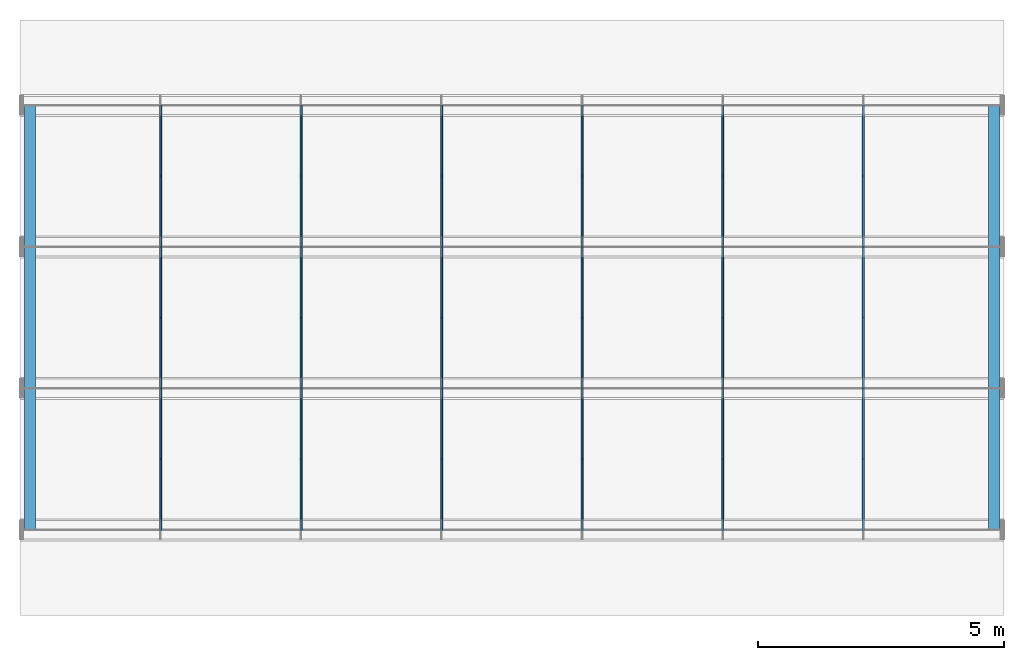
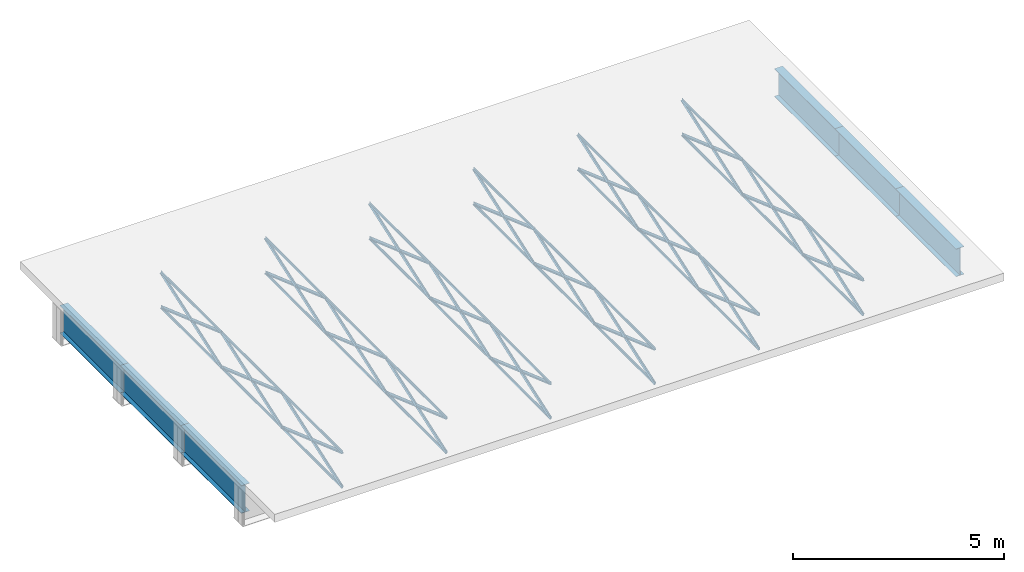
# One storey, part 1 of 12: 78 members.
"""IFC4 building model written with IfcOpenShell, lengths in metres."""

from ifc_helpers import new_model, si_unit, frame, origin, origin_with_axes, origin_2d_with_axis, place, context, subcontext, project, spatial, i_section, l_section, extrude, element, save


model = new_model("IFC4")

# Units and contexts
model_context = context("Model", 3, precision=1e-05, world=origin())
body_context = subcontext(model_context, "Body", "Model", "MODEL_VIEW")
ifc_project = project(units=[si_unit("LENGTHUNIT", "METRE"), si_unit("AREAUNIT", "SQUARE_METRE"), si_unit("VOLUMEUNIT", "CUBIC_METRE"), si_unit("PLANEANGLEUNIT", "RADIAN")], contexts=[model_context])

# Site, building, storey
site_placement = place(None, origin_with_axes())
site = spatial("IfcSite", under=ifc_project, at=site_placement, Name="Default Site")
building_placement = place(site_placement, origin_with_axes())
building = spatial("IfcBuilding", under=site, at=building_placement, Name="Bridge Structure")
storey_placement = place(building_placement, origin_with_axes())
storey = spatial("IfcBuildingStorey", under=building, at=storey_placement, Name="Superstructure")

# Members
for number, where, z_axis, x_axis, name in (
    (1, (0.2, -4.3125, 0.1015), (0.0, 1.0, 0.0), (-1.0, 0.0, 0.0), "End Diaphragm"),
    (2, (0.2, -1.4375, 0.1015), (0.0, 1.0, 0.0), (-1.0, 0.0, 0.0), "End Diaphragm"),
    (3, (0.2, 1.4375, 0.1015), (0.0, 1.0, 0.0), (-1.0, 0.0, 0.0), "End Diaphragm"),
):
    element("IfcMember", number, at=place(storey_placement, frame(where, z_axis=z_axis, x_axis=x_axis)), inside=storey, Name=name, context=body_context, shape_type="SweptSolid", body=[
        extrude(i_section(OverallWidth=0.225, OverallDepth=0.809, WebThickness=0.01, FlangeThickness=0.012, at=origin_2d_with_axis()), origin_with_axes(), (0.0, 0.0, 1.0), 2.875),
    ])
for number, where, z_axis, x_axis, name in (
    (4, (2.857142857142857, -4.3125, 0.506), (0.0, 0.9432686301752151, -0.33203055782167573), (-1.0, 0.0, 0.0), "Diagonal Brace"),
    (5, (2.857142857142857, -4.3125, -0.506), (0.0, 0.9432686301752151, 0.33203055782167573), (-1.0, 0.0, 0.0), "Diagonal Brace"),
):
    element("IfcMember", number, at=place(storey_placement, frame(where, z_axis=z_axis, x_axis=x_axis)), inside=storey, Name=name, context=body_context, shape_type="SweptSolid", body=[
        extrude(l_section(Depth=0.075, Width=0.05, Thickness=0.008, at=origin_2d_with_axis()), origin_with_axes(), (0.0, 0.0, 1.0), 3.04791223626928),
    ])
for number, where, z_axis, x_axis, name in (
    (6, (2.857142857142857, -4.3125, -0.506), (0.0, 1.0, 0.0), (-1.0, 0.0, 0.0), "Bottom Chord"),
    (7, (2.857142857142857, -4.3125, 0.506), (0.0, 1.0, 0.0), (-1.0, 0.0, 0.0), "Top Chord"),
):
    element("IfcMember", number, at=place(storey_placement, frame(where, z_axis=z_axis, x_axis=x_axis)), inside=storey, Name=name, context=body_context, shape_type="SweptSolid", body=[
        extrude(l_section(Depth=0.065, Width=0.04, Thickness=0.008, at=origin_2d_with_axis()), origin_with_axes(), (0.0, 0.0, 1.0), 2.875),
    ])
for number, where, z_axis, x_axis, name in (
    (8, (2.857142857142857, -1.4375, 0.506), (0.0, 0.9432686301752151, -0.33203055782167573), (-1.0, 0.0, 0.0), "Diagonal Brace"),
    (9, (2.857142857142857, -1.4375, -0.506), (0.0, 0.9432686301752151, 0.33203055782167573), (-1.0, 0.0, 0.0), "Diagonal Brace"),
):
    element("IfcMember", number, at=place(storey_placement, frame(where, z_axis=z_axis, x_axis=x_axis)), inside=storey, Name=name, context=body_context, shape_type="SweptSolid", body=[
        extrude(l_section(Depth=0.075, Width=0.05, Thickness=0.008, at=origin_2d_with_axis()), origin_with_axes(), (0.0, 0.0, 1.0), 3.04791223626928),
    ])
for number, where, z_axis, x_axis, name in (
    (10, (2.857142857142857, -1.4375, -0.506), (0.0, 1.0, 0.0), (-1.0, 0.0, 0.0), "Bottom Chord"),
    (11, (2.857142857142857, -1.4375, 0.506), (0.0, 1.0, 0.0), (-1.0, 0.0, 0.0), "Top Chord"),
):
    element("IfcMember", number, at=place(storey_placement, frame(where, z_axis=z_axis, x_axis=x_axis)), inside=storey, Name=name, context=body_context, shape_type="SweptSolid", body=[
        extrude(l_section(Depth=0.065, Width=0.04, Thickness=0.008, at=origin_2d_with_axis()), origin_with_axes(), (0.0, 0.0, 1.0), 2.875),
    ])
for number, where, z_axis, x_axis, name in (
    (12, (2.857142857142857, 1.4375, 0.506), (0.0, 0.9432686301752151, -0.33203055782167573), (-1.0, 0.0, 0.0), "Diagonal Brace"),
    (13, (2.857142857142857, 1.4375, -0.506), (0.0, 0.9432686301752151, 0.33203055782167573), (-1.0, 0.0, 0.0), "Diagonal Brace"),
):
    element("IfcMember", number, at=place(storey_placement, frame(where, z_axis=z_axis, x_axis=x_axis)), inside=storey, Name=name, context=body_context, shape_type="SweptSolid", body=[
        extrude(l_section(Depth=0.075, Width=0.05, Thickness=0.008, at=origin_2d_with_axis()), origin_with_axes(), (0.0, 0.0, 1.0), 3.04791223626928),
    ])
for number, where, z_axis, x_axis, name in (
    (14, (2.857142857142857, 1.4375, -0.506), (0.0, 1.0, 0.0), (-1.0, 0.0, 0.0), "Bottom Chord"),
    (15, (2.857142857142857, 1.4375, 0.506), (0.0, 1.0, 0.0), (-1.0, 0.0, 0.0), "Top Chord"),
):
    element("IfcMember", number, at=place(storey_placement, frame(where, z_axis=z_axis, x_axis=x_axis)), inside=storey, Name=name, context=body_context, shape_type="SweptSolid", body=[
        extrude(l_section(Depth=0.065, Width=0.04, Thickness=0.008, at=origin_2d_with_axis()), origin_with_axes(), (0.0, 0.0, 1.0), 2.875),
    ])
for number, where, z_axis, x_axis, name in (
    (16, (5.714285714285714, -4.3125, 0.506), (0.0, 0.9432686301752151, -0.33203055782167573), (-1.0, 0.0, 0.0), "Diagonal Brace"),
    (17, (5.714285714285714, -4.3125, -0.506), (0.0, 0.9432686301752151, 0.33203055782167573), (-1.0, 0.0, 0.0), "Diagonal Brace"),
):
    element("IfcMember", number, at=place(storey_placement, frame(where, z_axis=z_axis, x_axis=x_axis)), inside=storey, Name=name, context=body_context, shape_type="SweptSolid", body=[
        extrude(l_section(Depth=0.075, Width=0.05, Thickness=0.008, at=origin_2d_with_axis()), origin_with_axes(), (0.0, 0.0, 1.0), 3.04791223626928),
    ])
for number, where, z_axis, x_axis, name in (
    (18, (5.714285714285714, -4.3125, -0.506), (0.0, 1.0, 0.0), (-1.0, 0.0, 0.0), "Bottom Chord"),
    (19, (5.714285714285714, -4.3125, 0.506), (0.0, 1.0, 0.0), (-1.0, 0.0, 0.0), "Top Chord"),
):
    element("IfcMember", number, at=place(storey_placement, frame(where, z_axis=z_axis, x_axis=x_axis)), inside=storey, Name=name, context=body_context, shape_type="SweptSolid", body=[
        extrude(l_section(Depth=0.065, Width=0.04, Thickness=0.008, at=origin_2d_with_axis()), origin_with_axes(), (0.0, 0.0, 1.0), 2.875),
    ])
for number, where, z_axis, x_axis, name in (
    (20, (5.714285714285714, -1.4375, 0.506), (0.0, 0.9432686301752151, -0.33203055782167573), (-1.0, 0.0, 0.0), "Diagonal Brace"),
    (21, (5.714285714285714, -1.4375, -0.506), (0.0, 0.9432686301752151, 0.33203055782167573), (-1.0, 0.0, 0.0), "Diagonal Brace"),
):
    element("IfcMember", number, at=place(storey_placement, frame(where, z_axis=z_axis, x_axis=x_axis)), inside=storey, Name=name, context=body_context, shape_type="SweptSolid", body=[
        extrude(l_section(Depth=0.075, Width=0.05, Thickness=0.008, at=origin_2d_with_axis()), origin_with_axes(), (0.0, 0.0, 1.0), 3.04791223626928),
    ])
for number, where, z_axis, x_axis, name in (
    (22, (5.714285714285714, -1.4375, -0.506), (0.0, 1.0, 0.0), (-1.0, 0.0, 0.0), "Bottom Chord"),
    (23, (5.714285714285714, -1.4375, 0.506), (0.0, 1.0, 0.0), (-1.0, 0.0, 0.0), "Top Chord"),
):
    element("IfcMember", number, at=place(storey_placement, frame(where, z_axis=z_axis, x_axis=x_axis)), inside=storey, Name=name, context=body_context, shape_type="SweptSolid", body=[
        extrude(l_section(Depth=0.065, Width=0.04, Thickness=0.008, at=origin_2d_with_axis()), origin_with_axes(), (0.0, 0.0, 1.0), 2.875),
    ])
for number, where, z_axis, x_axis, name in (
    (24, (5.714285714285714, 1.4375, 0.506), (0.0, 0.9432686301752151, -0.33203055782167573), (-1.0, 0.0, 0.0), "Diagonal Brace"),
    (25, (5.714285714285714, 1.4375, -0.506), (0.0, 0.9432686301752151, 0.33203055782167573), (-1.0, 0.0, 0.0), "Diagonal Brace"),
):
    element("IfcMember", number, at=place(storey_placement, frame(where, z_axis=z_axis, x_axis=x_axis)), inside=storey, Name=name, context=body_context, shape_type="SweptSolid", body=[
        extrude(l_section(Depth=0.075, Width=0.05, Thickness=0.008, at=origin_2d_with_axis()), origin_with_axes(), (0.0, 0.0, 1.0), 3.04791223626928),
    ])
for number, where, z_axis, x_axis, name in (
    (26, (5.714285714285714, 1.4375, -0.506), (0.0, 1.0, 0.0), (-1.0, 0.0, 0.0), "Bottom Chord"),
    (27, (5.714285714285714, 1.4375, 0.506), (0.0, 1.0, 0.0), (-1.0, 0.0, 0.0), "Top Chord"),
):
    element("IfcMember", number, at=place(storey_placement, frame(where, z_axis=z_axis, x_axis=x_axis)), inside=storey, Name=name, context=body_context, shape_type="SweptSolid", body=[
        extrude(l_section(Depth=0.065, Width=0.04, Thickness=0.008, at=origin_2d_with_axis()), origin_with_axes(), (0.0, 0.0, 1.0), 2.875),
    ])
for number, where, z_axis, x_axis, name in (
    (28, (8.571428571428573, -4.3125, 0.506), (0.0, 0.9432686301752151, -0.33203055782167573), (-1.0, 0.0, 0.0), "Diagonal Brace"),
    (29, (8.571428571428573, -4.3125, -0.506), (0.0, 0.9432686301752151, 0.33203055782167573), (-1.0, 0.0, 0.0), "Diagonal Brace"),
):
    element("IfcMember", number, at=place(storey_placement, frame(where, z_axis=z_axis, x_axis=x_axis)), inside=storey, Name=name, context=body_context, shape_type="SweptSolid", body=[
        extrude(l_section(Depth=0.075, Width=0.05, Thickness=0.008, at=origin_2d_with_axis()), origin_with_axes(), (0.0, 0.0, 1.0), 3.04791223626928),
    ])
for number, where, z_axis, x_axis, name in (
    (30, (8.571428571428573, -4.3125, -0.506), (0.0, 1.0, 0.0), (-1.0, 0.0, 0.0), "Bottom Chord"),
    (31, (8.571428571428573, -4.3125, 0.506), (0.0, 1.0, 0.0), (-1.0, 0.0, 0.0), "Top Chord"),
):
    element("IfcMember", number, at=place(storey_placement, frame(where, z_axis=z_axis, x_axis=x_axis)), inside=storey, Name=name, context=body_context, shape_type="SweptSolid", body=[
        extrude(l_section(Depth=0.065, Width=0.04, Thickness=0.008, at=origin_2d_with_axis()), origin_with_axes(), (0.0, 0.0, 1.0), 2.875),
    ])
for number, where, z_axis, x_axis, name in (
    (32, (8.571428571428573, -1.4375, 0.506), (0.0, 0.9432686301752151, -0.33203055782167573), (-1.0, 0.0, 0.0), "Diagonal Brace"),
    (33, (8.571428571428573, -1.4375, -0.506), (0.0, 0.9432686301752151, 0.33203055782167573), (-1.0, 0.0, 0.0), "Diagonal Brace"),
):
    element("IfcMember", number, at=place(storey_placement, frame(where, z_axis=z_axis, x_axis=x_axis)), inside=storey, Name=name, context=body_context, shape_type="SweptSolid", body=[
        extrude(l_section(Depth=0.075, Width=0.05, Thickness=0.008, at=origin_2d_with_axis()), origin_with_axes(), (0.0, 0.0, 1.0), 3.04791223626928),
    ])
for number, where, z_axis, x_axis, name in (
    (34, (8.571428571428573, -1.4375, -0.506), (0.0, 1.0, 0.0), (-1.0, 0.0, 0.0), "Bottom Chord"),
    (35, (8.571428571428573, -1.4375, 0.506), (0.0, 1.0, 0.0), (-1.0, 0.0, 0.0), "Top Chord"),
):
    element("IfcMember", number, at=place(storey_placement, frame(where, z_axis=z_axis, x_axis=x_axis)), inside=storey, Name=name, context=body_context, shape_type="SweptSolid", body=[
        extrude(l_section(Depth=0.065, Width=0.04, Thickness=0.008, at=origin_2d_with_axis()), origin_with_axes(), (0.0, 0.0, 1.0), 2.875),
    ])
for number, where, z_axis, x_axis, name in (
    (36, (8.571428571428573, 1.4375, 0.506), (0.0, 0.9432686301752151, -0.33203055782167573), (-1.0, 0.0, 0.0), "Diagonal Brace"),
    (37, (8.571428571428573, 1.4375, -0.506), (0.0, 0.9432686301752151, 0.33203055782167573), (-1.0, 0.0, 0.0), "Diagonal Brace"),
):
    element("IfcMember", number, at=place(storey_placement, frame(where, z_axis=z_axis, x_axis=x_axis)), inside=storey, Name=name, context=body_context, shape_type="SweptSolid", body=[
        extrude(l_section(Depth=0.075, Width=0.05, Thickness=0.008, at=origin_2d_with_axis()), origin_with_axes(), (0.0, 0.0, 1.0), 3.04791223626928),
    ])
for number, where, z_axis, x_axis, name in (
    (38, (8.571428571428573, 1.4375, -0.506), (0.0, 1.0, 0.0), (-1.0, 0.0, 0.0), "Bottom Chord"),
    (39, (8.571428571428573, 1.4375, 0.506), (0.0, 1.0, 0.0), (-1.0, 0.0, 0.0), "Top Chord"),
):
    element("IfcMember", number, at=place(storey_placement, frame(where, z_axis=z_axis, x_axis=x_axis)), inside=storey, Name=name, context=body_context, shape_type="SweptSolid", body=[
        extrude(l_section(Depth=0.065, Width=0.04, Thickness=0.008, at=origin_2d_with_axis()), origin_with_axes(), (0.0, 0.0, 1.0), 2.875),
    ])
for number, where, z_axis, x_axis, name in (
    (40, (11.428571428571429, -4.3125, 0.506), (0.0, 0.9432686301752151, -0.33203055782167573), (-1.0, 0.0, 0.0), "Diagonal Brace"),
    (41, (11.428571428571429, -4.3125, -0.506), (0.0, 0.9432686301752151, 0.33203055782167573), (-1.0, 0.0, 0.0), "Diagonal Brace"),
):
    element("IfcMember", number, at=place(storey_placement, frame(where, z_axis=z_axis, x_axis=x_axis)), inside=storey, Name=name, context=body_context, shape_type="SweptSolid", body=[
        extrude(l_section(Depth=0.075, Width=0.05, Thickness=0.008, at=origin_2d_with_axis()), origin_with_axes(), (0.0, 0.0, 1.0), 3.04791223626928),
    ])
for number, where, z_axis, x_axis, name in (
    (42, (11.428571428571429, -4.3125, -0.506), (0.0, 1.0, 0.0), (-1.0, 0.0, 0.0), "Bottom Chord"),
    (43, (11.428571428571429, -4.3125, 0.506), (0.0, 1.0, 0.0), (-1.0, 0.0, 0.0), "Top Chord"),
):
    element("IfcMember", number, at=place(storey_placement, frame(where, z_axis=z_axis, x_axis=x_axis)), inside=storey, Name=name, context=body_context, shape_type="SweptSolid", body=[
        extrude(l_section(Depth=0.065, Width=0.04, Thickness=0.008, at=origin_2d_with_axis()), origin_with_axes(), (0.0, 0.0, 1.0), 2.875),
    ])
for number, where, z_axis, x_axis, name in (
    (44, (11.428571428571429, -1.4375, 0.506), (0.0, 0.9432686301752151, -0.33203055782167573), (-1.0, 0.0, 0.0), "Diagonal Brace"),
    (45, (11.428571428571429, -1.4375, -0.506), (0.0, 0.9432686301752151, 0.33203055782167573), (-1.0, 0.0, 0.0), "Diagonal Brace"),
):
    element("IfcMember", number, at=place(storey_placement, frame(where, z_axis=z_axis, x_axis=x_axis)), inside=storey, Name=name, context=body_context, shape_type="SweptSolid", body=[
        extrude(l_section(Depth=0.075, Width=0.05, Thickness=0.008, at=origin_2d_with_axis()), origin_with_axes(), (0.0, 0.0, 1.0), 3.04791223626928),
    ])
for number, where, z_axis, x_axis, name in (
    (46, (11.428571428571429, -1.4375, -0.506), (0.0, 1.0, 0.0), (-1.0, 0.0, 0.0), "Bottom Chord"),
    (47, (11.428571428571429, -1.4375, 0.506), (0.0, 1.0, 0.0), (-1.0, 0.0, 0.0), "Top Chord"),
):
    element("IfcMember", number, at=place(storey_placement, frame(where, z_axis=z_axis, x_axis=x_axis)), inside=storey, Name=name, context=body_context, shape_type="SweptSolid", body=[
        extrude(l_section(Depth=0.065, Width=0.04, Thickness=0.008, at=origin_2d_with_axis()), origin_with_axes(), (0.0, 0.0, 1.0), 2.875),
    ])
for number, where, z_axis, x_axis, name in (
    (48, (11.428571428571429, 1.4375, 0.506), (0.0, 0.9432686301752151, -0.33203055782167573), (-1.0, 0.0, 0.0), "Diagonal Brace"),
    (49, (11.428571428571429, 1.4375, -0.506), (0.0, 0.9432686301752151, 0.33203055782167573), (-1.0, 0.0, 0.0), "Diagonal Brace"),
):
    element("IfcMember", number, at=place(storey_placement, frame(where, z_axis=z_axis, x_axis=x_axis)), inside=storey, Name=name, context=body_context, shape_type="SweptSolid", body=[
        extrude(l_section(Depth=0.075, Width=0.05, Thickness=0.008, at=origin_2d_with_axis()), origin_with_axes(), (0.0, 0.0, 1.0), 3.04791223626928),
    ])
for number, where, z_axis, x_axis, name in (
    (50, (11.428571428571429, 1.4375, -0.506), (0.0, 1.0, 0.0), (-1.0, 0.0, 0.0), "Bottom Chord"),
    (51, (11.428571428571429, 1.4375, 0.506), (0.0, 1.0, 0.0), (-1.0, 0.0, 0.0), "Top Chord"),
):
    element("IfcMember", number, at=place(storey_placement, frame(where, z_axis=z_axis, x_axis=x_axis)), inside=storey, Name=name, context=body_context, shape_type="SweptSolid", body=[
        extrude(l_section(Depth=0.065, Width=0.04, Thickness=0.008, at=origin_2d_with_axis()), origin_with_axes(), (0.0, 0.0, 1.0), 2.875),
    ])
for number, where, z_axis, x_axis, name in (
    (52, (14.285714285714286, -4.3125, 0.506), (0.0, 0.9432686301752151, -0.33203055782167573), (-1.0, 0.0, 0.0), "Diagonal Brace"),
    (53, (14.285714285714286, -4.3125, -0.506), (0.0, 0.9432686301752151, 0.33203055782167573), (-1.0, 0.0, 0.0), "Diagonal Brace"),
):
    element("IfcMember", number, at=place(storey_placement, frame(where, z_axis=z_axis, x_axis=x_axis)), inside=storey, Name=name, context=body_context, shape_type="SweptSolid", body=[
        extrude(l_section(Depth=0.075, Width=0.05, Thickness=0.008, at=origin_2d_with_axis()), origin_with_axes(), (0.0, 0.0, 1.0), 3.04791223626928),
    ])
for number, where, z_axis, x_axis, name in (
    (54, (14.285714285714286, -4.3125, -0.506), (0.0, 1.0, 0.0), (-1.0, 0.0, 0.0), "Bottom Chord"),
    (55, (14.285714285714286, -4.3125, 0.506), (0.0, 1.0, 0.0), (-1.0, 0.0, 0.0), "Top Chord"),
):
    element("IfcMember", number, at=place(storey_placement, frame(where, z_axis=z_axis, x_axis=x_axis)), inside=storey, Name=name, context=body_context, shape_type="SweptSolid", body=[
        extrude(l_section(Depth=0.065, Width=0.04, Thickness=0.008, at=origin_2d_with_axis()), origin_with_axes(), (0.0, 0.0, 1.0), 2.875),
    ])
for number, where, z_axis, x_axis, name in (
    (56, (14.285714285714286, -1.4375, 0.506), (0.0, 0.9432686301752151, -0.33203055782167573), (-1.0, 0.0, 0.0), "Diagonal Brace"),
    (57, (14.285714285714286, -1.4375, -0.506), (0.0, 0.9432686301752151, 0.33203055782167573), (-1.0, 0.0, 0.0), "Diagonal Brace"),
):
    element("IfcMember", number, at=place(storey_placement, frame(where, z_axis=z_axis, x_axis=x_axis)), inside=storey, Name=name, context=body_context, shape_type="SweptSolid", body=[
        extrude(l_section(Depth=0.075, Width=0.05, Thickness=0.008, at=origin_2d_with_axis()), origin_with_axes(), (0.0, 0.0, 1.0), 3.04791223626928),
    ])
for number, where, z_axis, x_axis, name in (
    (58, (14.285714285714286, -1.4375, -0.506), (0.0, 1.0, 0.0), (-1.0, 0.0, 0.0), "Bottom Chord"),
    (59, (14.285714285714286, -1.4375, 0.506), (0.0, 1.0, 0.0), (-1.0, 0.0, 0.0), "Top Chord"),
):
    element("IfcMember", number, at=place(storey_placement, frame(where, z_axis=z_axis, x_axis=x_axis)), inside=storey, Name=name, context=body_context, shape_type="SweptSolid", body=[
        extrude(l_section(Depth=0.065, Width=0.04, Thickness=0.008, at=origin_2d_with_axis()), origin_with_axes(), (0.0, 0.0, 1.0), 2.875),
    ])
for number, where, z_axis, x_axis, name in (
    (60, (14.285714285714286, 1.4375, 0.506), (0.0, 0.9432686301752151, -0.33203055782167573), (-1.0, 0.0, 0.0), "Diagonal Brace"),
    (61, (14.285714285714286, 1.4375, -0.506), (0.0, 0.9432686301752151, 0.33203055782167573), (-1.0, 0.0, 0.0), "Diagonal Brace"),
):
    element("IfcMember", number, at=place(storey_placement, frame(where, z_axis=z_axis, x_axis=x_axis)), inside=storey, Name=name, context=body_context, shape_type="SweptSolid", body=[
        extrude(l_section(Depth=0.075, Width=0.05, Thickness=0.008, at=origin_2d_with_axis()), origin_with_axes(), (0.0, 0.0, 1.0), 3.04791223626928),
    ])
for number, where, z_axis, x_axis, name in (
    (62, (14.285714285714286, 1.4375, -0.506), (0.0, 1.0, 0.0), (-1.0, 0.0, 0.0), "Bottom Chord"),
    (63, (14.285714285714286, 1.4375, 0.506), (0.0, 1.0, 0.0), (-1.0, 0.0, 0.0), "Top Chord"),
):
    element("IfcMember", number, at=place(storey_placement, frame(where, z_axis=z_axis, x_axis=x_axis)), inside=storey, Name=name, context=body_context, shape_type="SweptSolid", body=[
        extrude(l_section(Depth=0.065, Width=0.04, Thickness=0.008, at=origin_2d_with_axis()), origin_with_axes(), (0.0, 0.0, 1.0), 2.875),
    ])
for number, where, z_axis, x_axis, name in (
    (64, (17.142857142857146, -4.3125, 0.506), (0.0, 0.9432686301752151, -0.33203055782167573), (-1.0, 0.0, 0.0), "Diagonal Brace"),
    (65, (17.142857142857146, -4.3125, -0.506), (0.0, 0.9432686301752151, 0.33203055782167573), (-1.0, 0.0, 0.0), "Diagonal Brace"),
):
    element("IfcMember", number, at=place(storey_placement, frame(where, z_axis=z_axis, x_axis=x_axis)), inside=storey, Name=name, context=body_context, shape_type="SweptSolid", body=[
        extrude(l_section(Depth=0.075, Width=0.05, Thickness=0.008, at=origin_2d_with_axis()), origin_with_axes(), (0.0, 0.0, 1.0), 3.04791223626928),
    ])
for number, where, z_axis, x_axis, name in (
    (66, (17.142857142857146, -4.3125, -0.506), (0.0, 1.0, 0.0), (-1.0, 0.0, 0.0), "Bottom Chord"),
    (67, (17.142857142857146, -4.3125, 0.506), (0.0, 1.0, 0.0), (-1.0, 0.0, 0.0), "Top Chord"),
):
    element("IfcMember", number, at=place(storey_placement, frame(where, z_axis=z_axis, x_axis=x_axis)), inside=storey, Name=name, context=body_context, shape_type="SweptSolid", body=[
        extrude(l_section(Depth=0.065, Width=0.04, Thickness=0.008, at=origin_2d_with_axis()), origin_with_axes(), (0.0, 0.0, 1.0), 2.875),
    ])
for number, where, z_axis, x_axis, name in (
    (68, (17.142857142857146, -1.4375, 0.506), (0.0, 0.9432686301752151, -0.33203055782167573), (-1.0, 0.0, 0.0), "Diagonal Brace"),
    (69, (17.142857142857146, -1.4375, -0.506), (0.0, 0.9432686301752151, 0.33203055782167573), (-1.0, 0.0, 0.0), "Diagonal Brace"),
):
    element("IfcMember", number, at=place(storey_placement, frame(where, z_axis=z_axis, x_axis=x_axis)), inside=storey, Name=name, context=body_context, shape_type="SweptSolid", body=[
        extrude(l_section(Depth=0.075, Width=0.05, Thickness=0.008, at=origin_2d_with_axis()), origin_with_axes(), (0.0, 0.0, 1.0), 3.04791223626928),
    ])
for number, where, z_axis, x_axis, name in (
    (70, (17.142857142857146, -1.4375, -0.506), (0.0, 1.0, 0.0), (-1.0, 0.0, 0.0), "Bottom Chord"),
    (71, (17.142857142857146, -1.4375, 0.506), (0.0, 1.0, 0.0), (-1.0, 0.0, 0.0), "Top Chord"),
):
    element("IfcMember", number, at=place(storey_placement, frame(where, z_axis=z_axis, x_axis=x_axis)), inside=storey, Name=name, context=body_context, shape_type="SweptSolid", body=[
        extrude(l_section(Depth=0.065, Width=0.04, Thickness=0.008, at=origin_2d_with_axis()), origin_with_axes(), (0.0, 0.0, 1.0), 2.875),
    ])
for number, where, z_axis, x_axis, name in (
    (72, (17.142857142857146, 1.4375, 0.506), (0.0, 0.9432686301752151, -0.33203055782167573), (-1.0, 0.0, 0.0), "Diagonal Brace"),
    (73, (17.142857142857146, 1.4375, -0.506), (0.0, 0.9432686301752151, 0.33203055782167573), (-1.0, 0.0, 0.0), "Diagonal Brace"),
):
    element("IfcMember", number, at=place(storey_placement, frame(where, z_axis=z_axis, x_axis=x_axis)), inside=storey, Name=name, context=body_context, shape_type="SweptSolid", body=[
        extrude(l_section(Depth=0.075, Width=0.05, Thickness=0.008, at=origin_2d_with_axis()), origin_with_axes(), (0.0, 0.0, 1.0), 3.04791223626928),
    ])
for number, where, z_axis, x_axis, name in (
    (74, (17.142857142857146, 1.4375, -0.506), (0.0, 1.0, 0.0), (-1.0, 0.0, 0.0), "Bottom Chord"),
    (75, (17.142857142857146, 1.4375, 0.506), (0.0, 1.0, 0.0), (-1.0, 0.0, 0.0), "Top Chord"),
):
    element("IfcMember", number, at=place(storey_placement, frame(where, z_axis=z_axis, x_axis=x_axis)), inside=storey, Name=name, context=body_context, shape_type="SweptSolid", body=[
        extrude(l_section(Depth=0.065, Width=0.04, Thickness=0.008, at=origin_2d_with_axis()), origin_with_axes(), (0.0, 0.0, 1.0), 2.875),
    ])
for number, where, z_axis, x_axis, name in (
    (76, (19.8, -4.3125, 0.1015), (0.0, 1.0, 0.0), (-1.0, 0.0, 0.0), "End Diaphragm"),
    (77, (19.8, -1.4375, 0.1015), (0.0, 1.0, 0.0), (-1.0, 0.0, 0.0), "End Diaphragm"),
    (78, (19.8, 1.4375, 0.1015), (0.0, 1.0, 0.0), (-1.0, 0.0, 0.0), "End Diaphragm"),
):
    element("IfcMember", number, at=place(storey_placement, frame(where, z_axis=z_axis, x_axis=x_axis)), inside=storey, Name=name, context=body_context, shape_type="SweptSolid", body=[
        extrude(i_section(OverallWidth=0.225, OverallDepth=0.809, WebThickness=0.01, FlangeThickness=0.012, at=origin_2d_with_axis()), origin_with_axes(), (0.0, 0.0, 1.0), 2.875),
    ])

save(model, "model.ifc")
